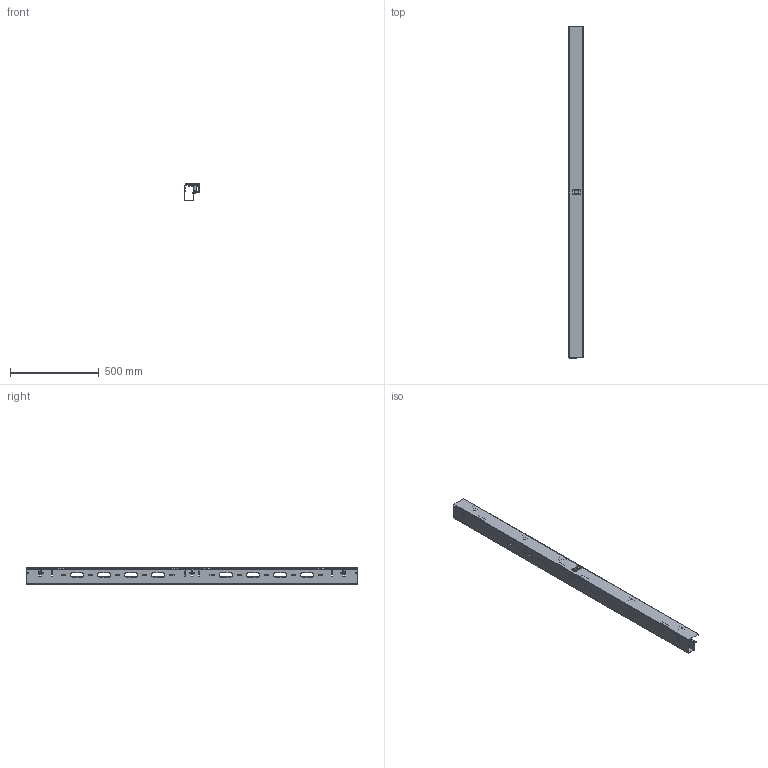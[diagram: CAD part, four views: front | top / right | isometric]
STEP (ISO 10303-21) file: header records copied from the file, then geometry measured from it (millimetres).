
FILE_DESCRIPTION((''),'2;1');
FILE_NAME('/scratch/goby/ideasadm/10975.stp','2011-06-16T10:41:36',( 'User'),('SDRC'),'I-DEAS Master Series 9','UNIX','Yes');
FILE_SCHEMA(('AUTOMOTIVE_DESIGN { 1 0 10303 214 0 1 1 1 }'));
Length unit declared in the file: inch
Products named in the file (10): 10975; spool; 87561874; 87563022; 87562945; screw_panhd_1032_500; screw_hexwshd_1032_375; slidelatch; assy_hinge; 43108001
Assembly tree (21 placements, depth 3):
  10975
    spool  x5
    87561874
    87563022
    87562945
    screw_panhd_1032_500  x5
    screw_hexwshd_1032_375
    slidelatch
    assy_hinge  x4
      43108001
Bounding box: 84.14 x 1867.41 x 95.3 mm (x, y, z)
Volume: 876248.3 mm3; surface area: 1042039.9 mm2
Topology: 23 solids, 23 shells, 948 faces, 2444 edges, 1546 vertices
Faces by surface type: bspline 948
Entity records: 22651 total; most frequent: CARTESIAN_POINT 10508, ORIENTED_EDGE 3408, EDGE_CURVE 1704, VERTEX_POINT 1059, EDGE_LOOP 935, QUASI_UNIFORM_CURVE 738, FACE_OUTER_BOUND 648, ADVANCED_FACE 648
